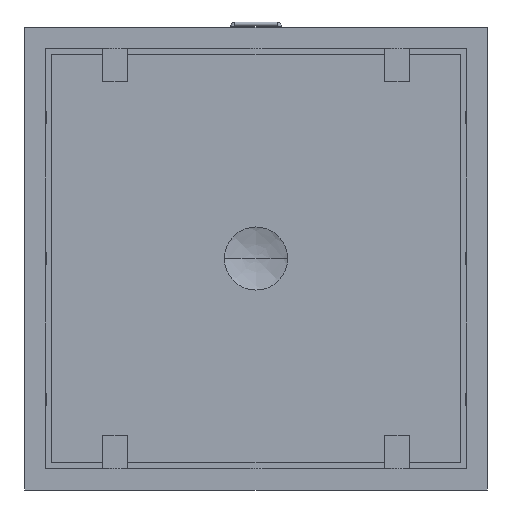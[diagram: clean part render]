
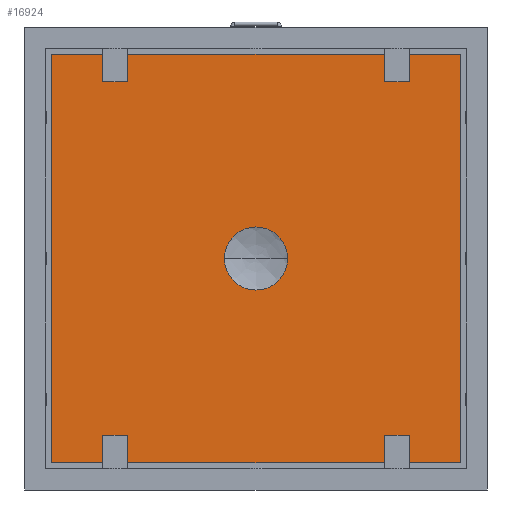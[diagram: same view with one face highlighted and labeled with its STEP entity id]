
A CAD part, front view. The second image highlights one B-rep face of the part: STEP entity #16924.
In plain terms, the highlighted planar face has unit normal (0, -1, 0).
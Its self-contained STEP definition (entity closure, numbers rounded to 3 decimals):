
#7908=DIRECTION('',(0.,0.,-1.));
#7909=VECTOR('',#7908,1044.);
#7910=CARTESIAN_POINT('',(522.,73.,513.));
#7911=LINE('',#7910,#7909);
#7916=CARTESIAN_POINT('',(0.,73.,0.));
#7917=DIRECTION('',(0.,-1.,0.));
#7918=DIRECTION('',(-1.,0.,0.));
#7919=AXIS2_PLACEMENT_3D('',#7916,#7917,#7918);
#7921=CARTESIAN_POINT('',(0.,73.,0.));
#7922=DIRECTION('',(0.,-1.,0.));
#7923=DIRECTION('',(1.,0.,0.));
#7924=AXIS2_PLACEMENT_3D('',#7921,#7922,#7923);
#7926=DIRECTION('',(-1.,0.,0.));
#7927=VECTOR('',#7926,1044.);
#7928=CARTESIAN_POINT('',(522.,73.,-531.));
#7929=LINE('',#7928,#7927);
#7934=DIRECTION('',(0.,0.,1.));
#7935=VECTOR('',#7934,1044.);
#7936=CARTESIAN_POINT('',(-522.,73.,-531.));
#7937=LINE('',#7936,#7935);
#7942=DIRECTION('',(1.,0.,0.));
#7943=VECTOR('',#7942,1044.);
#7944=CARTESIAN_POINT('',(-522.,73.,513.));
#7945=LINE('',#7944,#7943);
#13714=CARTESIAN_POINT('',(522.,73.,513.));
#13715=CARTESIAN_POINT('',(522.,73.,-531.));
#13716=VERTEX_POINT('',#13714);
#13717=VERTEX_POINT('',#13715);
#13718=CARTESIAN_POINT('',(-522.,73.,-531.));
#13719=VERTEX_POINT('',#13718);
#13720=CARTESIAN_POINT('',(-522.,73.,513.));
#13721=VERTEX_POINT('',#13720);
#13782=CARTESIAN_POINT('',(-75.,73.,0.));
#13783=CARTESIAN_POINT('',(75.,73.,0.));
#13784=VERTEX_POINT('',#13782);
#13785=VERTEX_POINT('',#13783);
#16904=CARTESIAN_POINT('',(0.,73.,0.));
#16905=DIRECTION('',(0.,1.,0.));
#16906=DIRECTION('',(0.,0.,-1.));
#16907=AXIS2_PLACEMENT_3D('',#16904,#16905,#16906);
#16908=PLANE('',#16907);
#16909=ORIENTED_EDGE('',*,*,#16894,.T.);
#16911=ORIENTED_EDGE('',*,*,#16910,.T.);
#16913=ORIENTED_EDGE('',*,*,#16912,.T.);
#16915=ORIENTED_EDGE('',*,*,#16914,.T.);
#16916=EDGE_LOOP('',(#16909,#16911,#16913,#16915));
#16917=FACE_OUTER_BOUND('',#16916,.F.);
#16919=ORIENTED_EDGE('',*,*,#16918,.T.);
#16921=ORIENTED_EDGE('',*,*,#16920,.T.);
#16922=EDGE_LOOP('',(#16919,#16921));
#16923=FACE_BOUND('',#16922,.F.);
#7920=CIRCLE('',#7919,75.);
#7925=CIRCLE('',#7924,75.);
#16894=EDGE_CURVE('',#13716,#13717,#7911,.T.);
#16910=EDGE_CURVE('',#13717,#13719,#7929,.T.);
#16912=EDGE_CURVE('',#13719,#13721,#7937,.T.);
#16914=EDGE_CURVE('',#13721,#13716,#7945,.T.);
#16918=EDGE_CURVE('',#13784,#13785,#7920,.T.);
#16920=EDGE_CURVE('',#13785,#13784,#7925,.T.);
#16924=ADVANCED_FACE('',(#16917,#16923),#16908,.F.);
